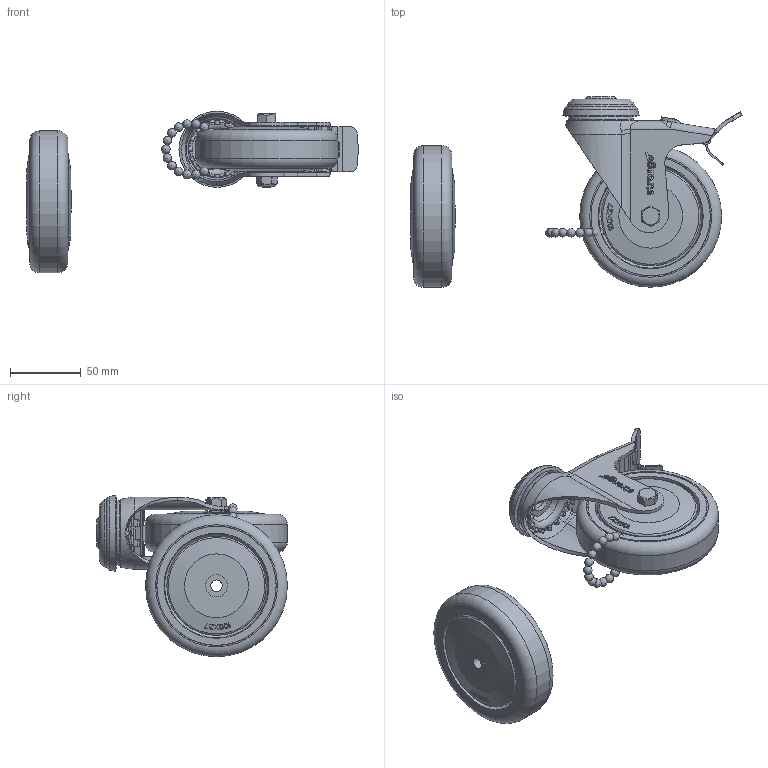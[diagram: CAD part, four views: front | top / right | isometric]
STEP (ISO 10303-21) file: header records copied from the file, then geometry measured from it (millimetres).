
FILE_DESCRIPTION(('STEP AP203'),'1');
FILE_NAME('E:/Pomoc/Strongo/344h39J100rZLC.stp',' ',(' '),(' '),'XStep 1.0',' ',' ');
FILE_SCHEMA(('CONFIG_CONTROL_DESIGN'));
Length unit declared in the file: metre
Products named in the file (4): Next assembly relationship; Assembly104; Assembly109
Bounding box: 233.92 x 134.5 x 113.8 mm (x, y, z)
Volume: 381235.7 mm3; surface area: 258419.9 mm2
Topology: 142 solids, 142 shells, 4087 faces, 11463 edges, 7564 vertices
Faces by surface type: plane 2827, cylinder 653, torus 219, cone 195, sphere 116, bspline 77
Full cylindrical faces by diameter (mm): 2.076 x4, 4.014 x2, 5.85 x2, 7 x1, 7.8 x2, 8 x17, 8.2 x4, 8.3 x4, 10.5 x2, 12 x6, 12.5 x1, 14 x2, 14.3 x4, 15.6 x4, 16.5 x4, 18 x4, 21.58 x2, 22 x2, 26 x4, 29 x4, 32 x6, 66.6 x4, 70 x4, 84 x2, 100 x2
Entity records: 68256 total; most frequent: CARTESIAN_POINT 21758, ORIENTED_EDGE 9994, DIRECTION 8830, EDGE_CURVE 4997, LINE 3590, VECTOR 3590, VERTEX_POINT 3340, AXIS2_PLACEMENT_3D 2620
